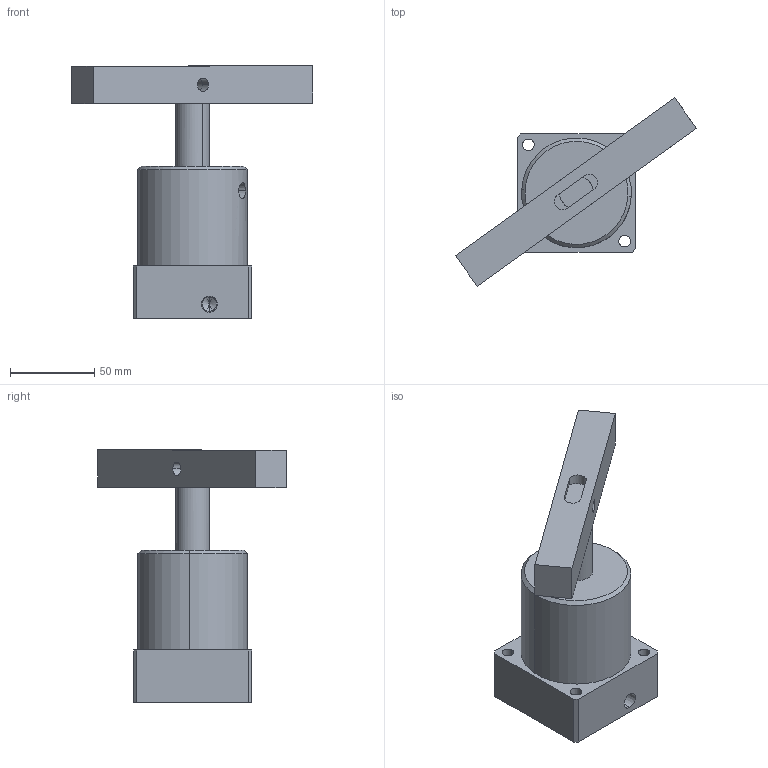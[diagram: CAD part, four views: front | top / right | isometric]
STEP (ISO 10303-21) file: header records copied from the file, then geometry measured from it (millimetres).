
FILE_DESCRIPTION (( 'STEP AP203' ), '1' );
FILE_NAME ('Bridage Double ø50.STEP', '2010-02-18T13:57:51', ( 'Christophe Gaillard' ), ( 'SGA' ), 'SwSTEP 2.0', 'SolidWorks 2007', '' );
FILE_SCHEMA (( 'CONFIG_CONTROL_DESIGN' ));
Length unit declared in the file: millimetre
Products named in the file (5): Bride ø50_Défaut; Base ø50_Défaut; Bridage Double ø50; Corps ø50_Défaut; Tige ø50_Défaut
Assembly tree (4 placements, depth 2):
  Bridage Double ø50
    Tige ø50_Défaut
    Base ø50_Défaut
    Bride ø50_Défaut
    Corps ø50_Défaut
Bounding box: 142.86 x 111.55 x 149.62 mm (x, y, z)
Volume: 428071.9 mm3; surface area: 70299.6 mm2
Topology: 4 solids, 4 shells, 66 faces, 162 edges, 104 vertices
Faces by surface type: cylinder 28, plane 28, cone 10
Entity records: 2563 total; most frequent: CARTESIAN_POINT 401, DIRECTION 370, ORIENTED_EDGE 316, EDGE_CURVE 158, AXIS2_PLACEMENT_3D 141, VERTEX_POINT 104, EDGE_LOOP 90, VECTOR 88
